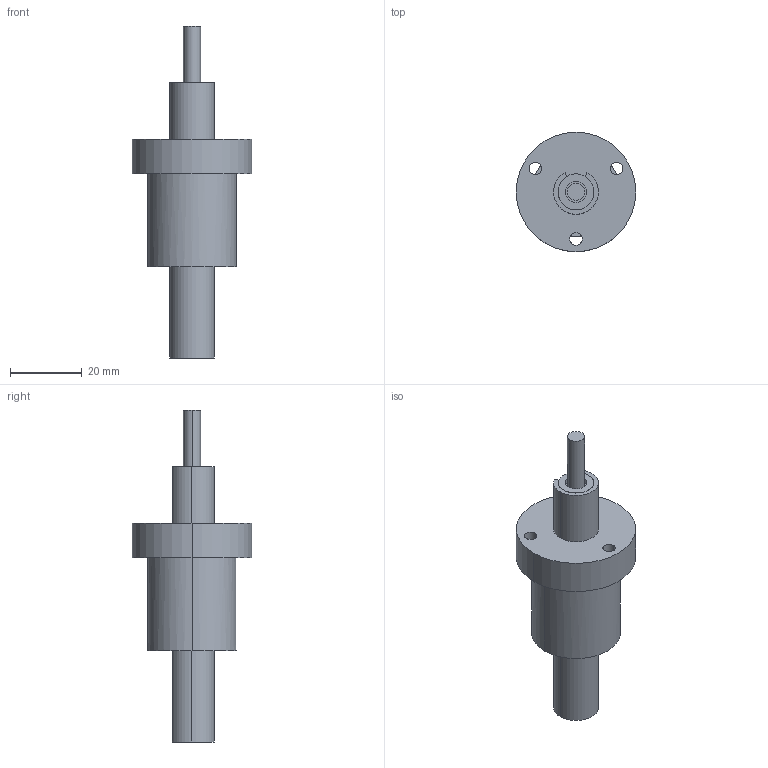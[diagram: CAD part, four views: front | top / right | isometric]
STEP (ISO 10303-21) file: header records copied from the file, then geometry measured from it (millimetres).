
FILE_DESCRIPTION (( 'STEP AP214' ), '1' );
FILE_NAME ('AMETEK-SRZ04KR-A00-0050-01.00-000.STEP', '2022-03-08T08:01:23', ( '' ), ( '' ), 'SwSTEP 2.0', 'SolidWorks 2021', '' );
FILE_SCHEMA (( 'AUTOMOTIVE_DESIGN' ));
Length unit declared in the file: inch
Products named in the file (6): SR4000 Leadscrew; AMETEK-SRZ04KR-A00-0050-01.00-000; 4000 srail component build up 2; 4000 srail component build up 1; SR4000 Rail; SRZ4000
Assembly tree (5 placements, depth 2):
  AMETEK-SRZ04KR-A00-0050-01.00-000
    SR4000 Rail
    4000 srail component build up 1
    4000 srail component build up 2
    SRZ4000
    SR4000 Leadscrew
Bounding box: 33.27 x 33.27 x 92.46 mm (x, y, z)
Volume: 24430.6 mm3; surface area: 15245.4 mm2
Topology: 5 solids, 5 shells, 72 faces, 174 edges, 114 vertices
Faces by surface type: cylinder 48, plane 24
Entity records: 3240 total; most frequent: DIRECTION 442, CARTESIAN_POINT 368, ORIENTED_EDGE 348, AXIS2_PLACEMENT_3D 188, EDGE_CURVE 174, VERTEX_POINT 114, CIRCLE 108, EDGE_LOOP 88
